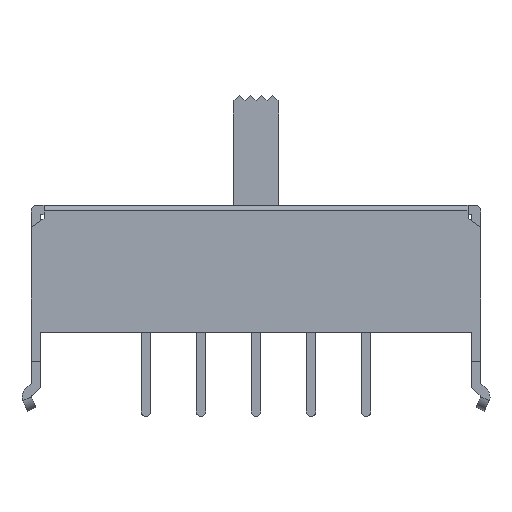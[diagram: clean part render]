
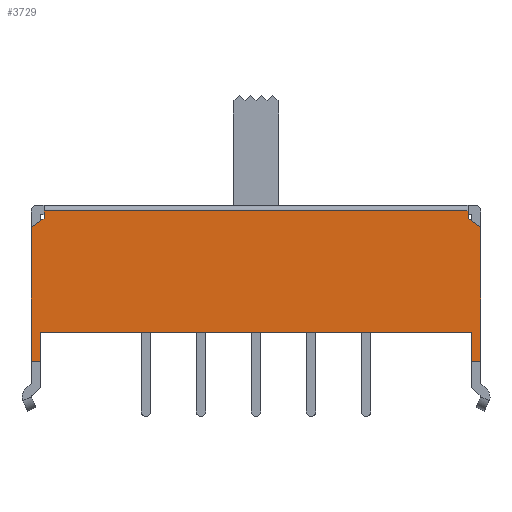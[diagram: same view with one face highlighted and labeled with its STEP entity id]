
A CAD part, top view. The second image highlights one B-rep face of the part: STEP entity #3729.
In plain terms, the highlighted planar face has unit normal (0, 0, 1).
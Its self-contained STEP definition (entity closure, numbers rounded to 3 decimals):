
#1611 = VERTEX_POINT ( 'NONE', #2173 ) ;
#1622 = EDGE_CURVE ( 'NONE', #3488, #1611, #2216, .T. ) ;
#2173 = CARTESIAN_POINT ( 'NONE',  ( 11.75, 0., 3.5 ) ) ;
#2213 = DIRECTION ( 'NONE',  ( 0., -1., 0. ) ) ;
#2214 = VECTOR ( 'NONE', #2213, 1000. ) ;
#2215 = CARTESIAN_POINT ( 'NONE',  ( 11.75, 4.7, 3.5 ) ) ;
#2216 = LINE ( 'NONE', #2215, #2214 ) ;
#2303 = CARTESIAN_POINT ( 'NONE',  ( -11.75, 1.6, 3.5 ) ) ;
#2309 = CARTESIAN_POINT ( 'NONE',  ( 11.75, 1.6, 3.5 ) ) ;
#2321 = DIRECTION ( 'NONE',  ( -1., 0., 0. ) ) ;
#2322 = VECTOR ( 'NONE', #2321, 1000. ) ;
#2323 = CARTESIAN_POINT ( 'NONE',  ( 9.7, 1.6, 3.5 ) ) ;
#2324 = LINE ( 'NONE', #2323, #2322 ) ;
#2641 = CARTESIAN_POINT ( 'NONE',  ( 12.25, 7.3, 3.5 ) ) ;
#2642 = LINE ( 'NONE', #2641, #2701 ) ;
#2664 = CARTESIAN_POINT ( 'NONE',  ( -12.25, 7.3, 3.5 ) ) ;
#2665 = DIRECTION ( 'NONE',  ( 0., 1., 0. ) ) ;
#2666 = VECTOR ( 'NONE', #2665, 1000. ) ;
#2667 = CARTESIAN_POINT ( 'NONE',  ( -12.25, 7.3, 3.5 ) ) ;
#2668 = LINE ( 'NONE', #2667, #2666 ) ;
#2669 = CARTESIAN_POINT ( 'NONE',  ( -12.25, 0., 3.5 ) ) ;
#2699 = CARTESIAN_POINT ( 'NONE',  ( 12.25, 0., 3.5 ) ) ;
#2700 = DIRECTION ( 'NONE',  ( 0., -1., 0. ) ) ;
#2701 = VECTOR ( 'NONE', #2700, 1000. ) ;
#2734 = CARTESIAN_POINT ( 'NONE',  ( 11.55, 7.8, 3.5 ) ) ;
#2735 = CARTESIAN_POINT ( 'NONE',  ( 11.55, 8.2, 3.5 ) ) ;
#2745 = CARTESIAN_POINT ( 'NONE',  ( 12.25, 7.3, 3.5 ) ) ;
#2751 = DIRECTION ( 'NONE',  ( 1., 0., 0. ) ) ;
#2752 = DIRECTION ( 'NONE',  ( 0., 0., 1. ) ) ;
#2753 = CARTESIAN_POINT ( 'NONE',  ( -12.25, 8., 3.5 ) ) ;
#2754 = AXIS2_PLACEMENT_3D ( 'NONE', #2753, #2752, #2751 ) ;
#2755 = PLANE ( 'NONE',  #2754 ) ;
#2756 = FACE_OUTER_BOUND ( 'NONE', #3700, .T. ) ;
#2761 = DIRECTION ( 'NONE',  ( 1., 0., 0. ) ) ;
#2762 = VECTOR ( 'NONE', #2761, 1000. ) ;
#2763 = CARTESIAN_POINT ( 'NONE',  ( 11.75, 0., 3.5 ) ) ;
#2764 = LINE ( 'NONE', #2763, #2762 ) ;
#2769 = DIRECTION ( 'NONE',  ( 0.814, 0.581, 0. ) ) ;
#2770 = VECTOR ( 'NONE', #2769, 1000. ) ;
#2771 = CARTESIAN_POINT ( 'NONE',  ( -11.55, 7.8, 3.5 ) ) ;
#2772 = LINE ( 'NONE', #2771, #2770 ) ;
#2773 = CARTESIAN_POINT ( 'NONE',  ( -11.55, 7.8, 3.5 ) ) ;
#2780 = CARTESIAN_POINT ( 'NONE',  ( -11.55, 8.2, 3.5 ) ) ;
#2781 = DIRECTION ( 'NONE',  ( -1., 0., 0. ) ) ;
#2782 = VECTOR ( 'NONE', #2781, 1000. ) ;
#2783 = CARTESIAN_POINT ( 'NONE',  ( -12.25, 8.2, 3.5 ) ) ;
#2784 = LINE ( 'NONE', #2783, #2782 ) ;
#2789 = DIRECTION ( 'NONE',  ( -1., 0., 0. ) ) ;
#2790 = VECTOR ( 'NONE', #2789, 1000. ) ;
#2791 = CARTESIAN_POINT ( 'NONE',  ( -11.75, 0., 3.5 ) ) ;
#2796 = LINE ( 'NONE', #2791, #2790 ) ;
#2801 = DIRECTION ( 'NONE',  ( 0., -1., 0. ) ) ;
#2802 = VECTOR ( 'NONE', #2801, 1000. ) ;
#2803 = CARTESIAN_POINT ( 'NONE',  ( 11.55, 8.5, 3.5 ) ) ;
#2804 = LINE ( 'NONE', #2803, #2802 ) ;
#2811 = DIRECTION ( 'NONE',  ( 0., 1., 0. ) ) ;
#2812 = VECTOR ( 'NONE', #2811, 1000. ) ;
#2813 = CARTESIAN_POINT ( 'NONE',  ( -11.55, 8.5, 3.5 ) ) ;
#2814 = LINE ( 'NONE', #2813, #2812 ) ;
#2820 = DIRECTION ( 'NONE',  ( 0.814, -0.581, 0. ) ) ;
#2821 = VECTOR ( 'NONE', #2820, 1000. ) ;
#2822 = CARTESIAN_POINT ( 'NONE',  ( 11.55, 7.8, 3.5 ) ) ;
#2823 = LINE ( 'NONE', #2822, #2821 ) ;
#3325 = DIRECTION ( 'NONE',  ( 0., -1., 0. ) ) ;
#3326 = VECTOR ( 'NONE', #3325, 1000. ) ;
#3327 = CARTESIAN_POINT ( 'NONE',  ( -11.75, 4.7, 3.5 ) ) ;
#3328 = LINE ( 'NONE', #3327, #3326 ) ;
#3414 = CARTESIAN_POINT ( 'NONE',  ( -11.75, 0., 3.5 ) ) ;
#3482 = EDGE_CURVE ( 'NONE', #3488, #3492, #2324, .T. ) ;
#3488 = VERTEX_POINT ( 'NONE', #2309 ) ;
#3492 = VERTEX_POINT ( 'NONE', #2303 ) ;
#3503 = ORIENTED_EDGE ( 'NONE', *, *, #3767, .F. ) ;
#3664 = VERTEX_POINT ( 'NONE', #2669 ) ;
#3667 = EDGE_CURVE ( 'NONE', #3664, #3668, #2668, .T. ) ;
#3668 = VERTEX_POINT ( 'NONE', #2664 ) ;
#3678 = ORIENTED_EDGE ( 'NONE', *, *, #3482, .F. ) ;
#3679 = ORIENTED_EDGE ( 'NONE', *, *, #1622, .T. ) ;
#3680 = ORIENTED_EDGE ( 'NONE', *, *, #3725, .T. ) ;
#3685 = EDGE_CURVE ( 'NONE', #3733, #3686, #2642, .T. ) ;
#3686 = VERTEX_POINT ( 'NONE', #2699 ) ;
#3700 = EDGE_LOOP ( 'NONE', ( #3678, #3679, #3680, #3726, #3503, #3802, #3755, #3778, #3759, #3783, #3746, #3749 ) ) ;
#3725 = EDGE_CURVE ( 'NONE', #1611, #3686, #2764, .T. ) ;
#3726 = ORIENTED_EDGE ( 'NONE', *, *, #3685, .F. ) ;
#3729 = ADVANCED_FACE ( 'NONE', ( #2756 ), #2755, .T. ) ;
#3733 = VERTEX_POINT ( 'NONE', #2745 ) ;
#3744 = VERTEX_POINT ( 'NONE', #2735 ) ;
#3745 = VERTEX_POINT ( 'NONE', #2734 ) ;
#3746 = ORIENTED_EDGE ( 'NONE', *, *, #3748, .F. ) ;
#3748 = EDGE_CURVE ( 'NONE', #4169, #3664, #2796, .T. ) ;
#3749 = ORIENTED_EDGE ( 'NONE', *, *, #4106, .F. ) ;
#3753 = EDGE_CURVE ( 'NONE', #3744, #3754, #2784, .T. ) ;
#3754 = VERTEX_POINT ( 'NONE', #2780 ) ;
#3755 = ORIENTED_EDGE ( 'NONE', *, *, #3753, .T. ) ;
#3758 = VERTEX_POINT ( 'NONE', #2773 ) ;
#3759 = ORIENTED_EDGE ( 'NONE', *, *, #3760, .F. ) ;
#3760 = EDGE_CURVE ( 'NONE', #3668, #3758, #2772, .T. ) ;
#3767 = EDGE_CURVE ( 'NONE', #3745, #3733, #2823, .T. ) ;
#3776 = EDGE_CURVE ( 'NONE', #3758, #3754, #2814, .T. ) ;
#3778 = ORIENTED_EDGE ( 'NONE', *, *, #3776, .F. ) ;
#3783 = ORIENTED_EDGE ( 'NONE', *, *, #3667, .F. ) ;
#3785 = EDGE_CURVE ( 'NONE', #3744, #3745, #2804, .T. ) ;
#3802 = ORIENTED_EDGE ( 'NONE', *, *, #3785, .F. ) ;
#4106 = EDGE_CURVE ( 'NONE', #3492, #4169, #3328, .T. ) ;
#4169 = VERTEX_POINT ( 'NONE', #3414 ) ;
